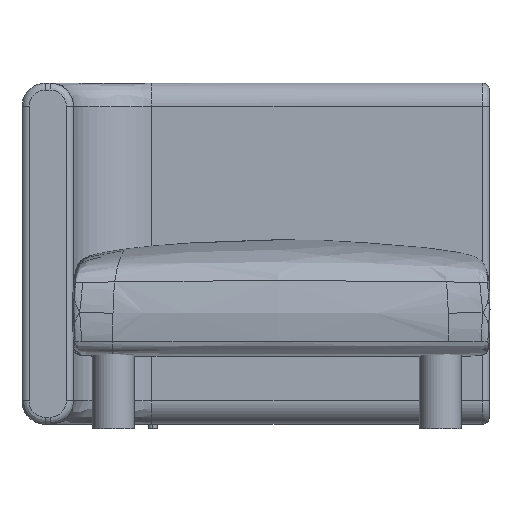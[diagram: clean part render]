
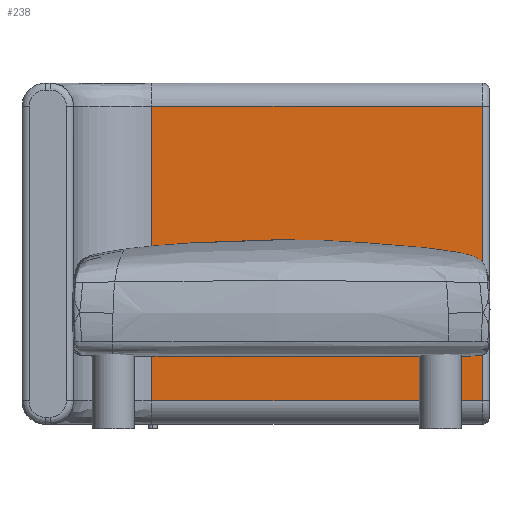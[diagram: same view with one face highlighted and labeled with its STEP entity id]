
A CAD part, front view. The second image highlights one B-rep face of the part: STEP entity #238.
In plain terms, the highlighted planar face has unit normal (0, -1, 0).
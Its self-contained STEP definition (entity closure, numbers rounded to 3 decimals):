
#44=(
BOUNDED_CURVE()
B_SPLINE_CURVE(1,(#5321,#5322),.UNSPECIFIED.,.F.,.F.)
B_SPLINE_CURVE_WITH_KNOTS((2,2),(0.,707.222),
 .UNSPECIFIED.)
CURVE()
GEOMETRIC_REPRESENTATION_ITEM()
RATIONAL_B_SPLINE_CURVE((1.,1.))
REPRESENTATION_ITEM('')
);
#51=(
BOUNDED_CURVE()
B_SPLINE_CURVE(1,(#5340,#5341),.UNSPECIFIED.,.F.,.F.)
B_SPLINE_CURVE_WITH_KNOTS((2,2),(50.,680.),.UNSPECIFIED.)
CURVE()
GEOMETRIC_REPRESENTATION_ITEM()
RATIONAL_B_SPLINE_CURVE((1.,1.))
REPRESENTATION_ITEM('')
);
#59=(
BOUNDED_CURVE()
B_SPLINE_CURVE(1,(#5361,#5362),.UNSPECIFIED.,.F.,.F.)
B_SPLINE_CURVE_WITH_KNOTS((2,2),(0.,707.222),
 .UNSPECIFIED.)
CURVE()
GEOMETRIC_REPRESENTATION_ITEM()
RATIONAL_B_SPLINE_CURVE((1.,1.))
REPRESENTATION_ITEM('')
);
#89=(
BOUNDED_CURVE()
B_SPLINE_CURVE(1,(#5450,#5451),.UNSPECIFIED.,.F.,.F.)
B_SPLINE_CURVE_WITH_KNOTS((2,2),(0.,630.),.UNSPECIFIED.)
CURVE()
GEOMETRIC_REPRESENTATION_ITEM()
RATIONAL_B_SPLINE_CURVE((1.,1.))
REPRESENTATION_ITEM('')
);
#134=PLANE('',#1277);
#238=ADVANCED_FACE('',(#319),#134,.T.);
#319=FACE_OUTER_BOUND('',#400,.T.);
#400=EDGE_LOOP('',(#699,#700,#701,#702));
#699=ORIENTED_EDGE('',*,*,#866,.F.);
#700=ORIENTED_EDGE('',*,*,#874,.F.);
#701=ORIENTED_EDGE('',*,*,#882,.T.);
#702=ORIENTED_EDGE('',*,*,#918,.F.);
#866=EDGE_CURVE('',#1084,#1125,#44,.T.);
#874=EDGE_CURVE('',#1096,#1084,#51,.T.);
#882=EDGE_CURVE('',#1096,#1126,#59,.T.);
#918=EDGE_CURVE('',#1125,#1126,#89,.T.);
#1084=VERTEX_POINT('',#5249);
#1096=VERTEX_POINT('',#5261);
#1125=VERTEX_POINT('',#5290);
#1126=VERTEX_POINT('',#5291);
#1277=AXIS2_PLACEMENT_3D('',#5201,#1322,$);
#1322=DIRECTION('',(0.,-1.,0.));
#5201=CARTESIAN_POINT('',(-9464.823,390.,0.));
#5249=CARTESIAN_POINT('',(-9464.823,390.,680.));
#5261=CARTESIAN_POINT('',(-9464.823,390.,50.));
#5290=CARTESIAN_POINT('',(-8757.601,390.,680.));
#5291=CARTESIAN_POINT('',(-8757.601,390.,50.));
#5321=CARTESIAN_POINT('',(-9464.823,390.,680.));
#5322=CARTESIAN_POINT('',(-8757.601,390.,680.));
#5340=CARTESIAN_POINT('',(-9464.823,390.,50.));
#5341=CARTESIAN_POINT('',(-9464.823,390.,680.));
#5361=CARTESIAN_POINT('',(-9464.823,390.,50.));
#5362=CARTESIAN_POINT('',(-8757.601,390.,50.));
#5450=CARTESIAN_POINT('',(-8757.601,390.,680.));
#5451=CARTESIAN_POINT('',(-8757.601,390.,50.));
